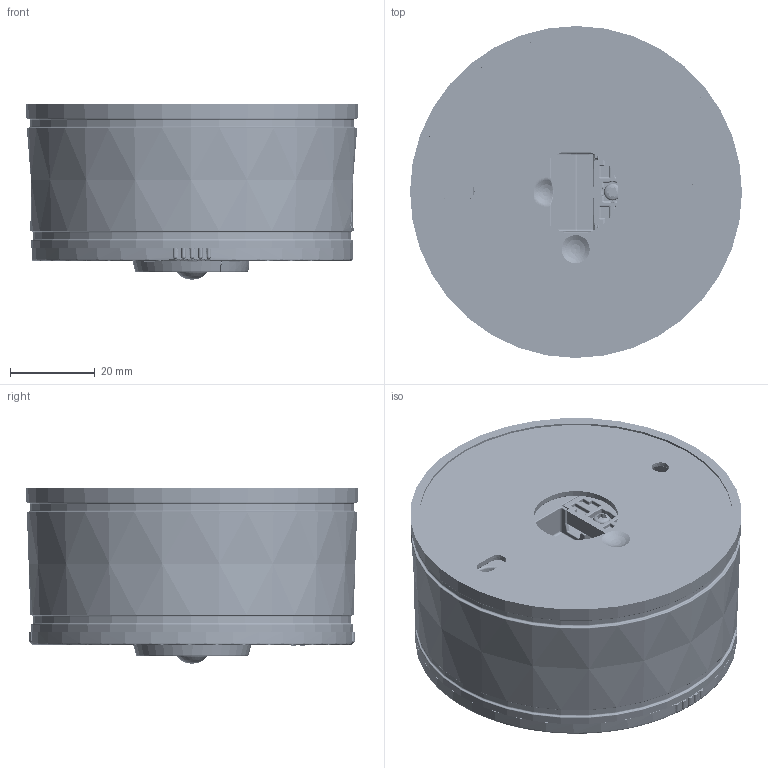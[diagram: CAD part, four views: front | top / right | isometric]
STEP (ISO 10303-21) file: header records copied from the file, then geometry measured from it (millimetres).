
FILE_DESCRIPTION(/* description */ (''),/* implementation_level */ '2;1');
FILE_NAME(/* name */ 'C:\Data\Vault\LE-TPD\9290 034 55100_EasyAir Occu-DL MP IP42 sensor MC\9290-034-55106_sh-010.stp',/* time_stamp */ '2025-04-28T12:40:26+02:00',/* author */ ('plr01226'),/* organization */ (''),/* preprocessor_version */ 'ST-DEVELOPER v18.1',/* originating_system */ 'Autodesk Inventor 2022',/* authorisation */ '');
FILE_SCHEMA (('AUTOMOTIVE_DESIGN { 1 0 10303 214 3 1 1 }'));
Products named in the file (3): 9290-034-55106_sh-010; 4422-962-58422; 9290-034-55106_sh-010_1
Assembly tree (2 placements, depth 2):
  9290-034-55106_sh-010
    4422-962-58422
    9290-034-55106_sh-010_1
Bounding box: 78.37 x 78.37 x 41.42 mm (x, y, z)
Volume: 67933 mm3; surface area: 72004 mm2
Topology: 2 solids, 5 shells, 6200 faces, 16312 edges, 10130 vertices
Faces by surface type: bspline 2987, plane 1247, cylinder 1003, sphere 324, torus 320, cone 319
Full cylindrical faces by diameter (mm): 1.04 x1, 1.1 x1, 1.5 x1, 2.4 x1, 2.5 x1, 3 x1, 3.5 x1, 4 x3, 5 x4, 8.2 x1, 14.744 x1, 16.1 x1, 17.8 x1, 74 x1, 75 x1, 76.375 x1
Entity records: 264078 total; most frequent: CARTESIAN_POINT 121856, ORIENTED_EDGE 32402, DIRECTION 22387, EDGE_CURVE 16201, VERTEX_POINT 10130, AXIS2_PLACEMENT_3D 8407, EDGE_LOOP 6455, FACE_OUTER_BOUND 6200
